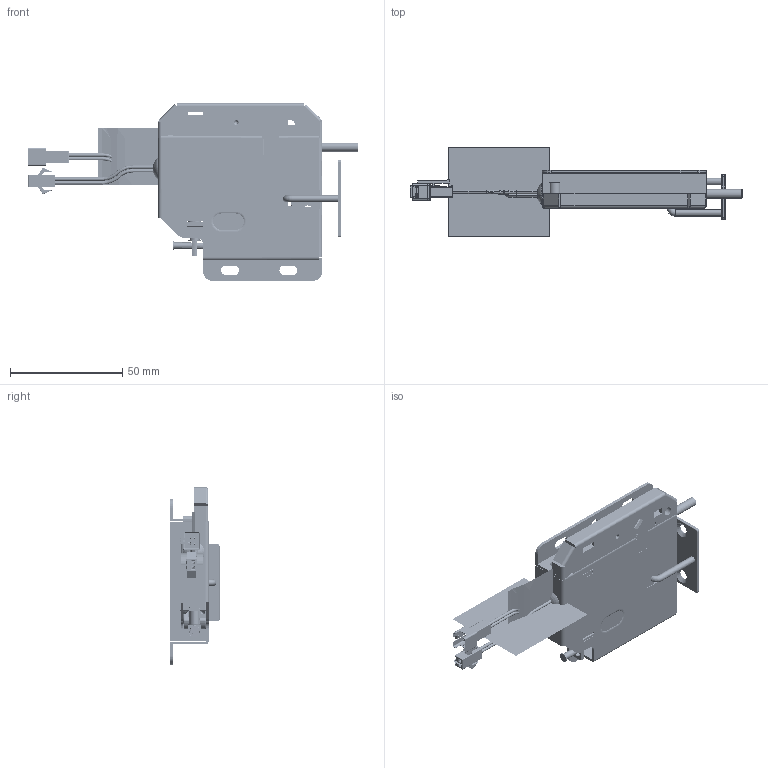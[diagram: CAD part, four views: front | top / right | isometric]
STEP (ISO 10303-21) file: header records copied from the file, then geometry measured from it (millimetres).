
FILE_DESCRIPTION((''),'2;1');
FILE_NAME('0005_ASM','2025-12-13T14:35:09',('PRIME'),(''),'CREO PARAMETRIC BY PTC INC, 2023073','CREO PARAMETRIC BY PTC INC, 2023073','');
FILE_SCHEMA(('CONFIG_CONTROL_DESIGN'));
Products named in the file (16): 0001; 1373-1C-00; 1373-1-0001; 1373-1B-00; 1373-1-00; 0537-1-0001; 4052-1B-0001; 0002; 26MM_4_40001; 00; _XG00; M3-60001; 0005_ASM
Assembly tree (17 placements, depth 2):
  0005_ASM
    0001
    1373-1C-00
    1373-1C-00
    1373-1-0001
    1373-1B-00
    1373-1B-00
    1373-1-00
    0537-1-0001
    4052-1B-0001
    0002
    26MM_4_40001
    00
    00
    _XG00
    M3-60001  x3
Bounding box: 147.9 x 40 x 79 mm (x, y, z)
Volume: 23580.7 mm3; surface area: 69608.3 mm2
Topology: 21 solids, 27 shells, 3043 faces, 7252 edges, 4324 vertices
Faces by surface type: cylinder 1359, plane 708, torus 355, bspline 349, sphere 170, cone 61, extrusion 41
Entity records: 127866 total; most frequent: CARTESIAN_POINT 63709, ORIENTED_EDGE 13710, DIRECTION 12678, EDGE_CURVE 6868, AXIS2_PLACEMENT_3D 4770, VERTEX_POINT 4118, VECTOR 3138, LINE 3097
